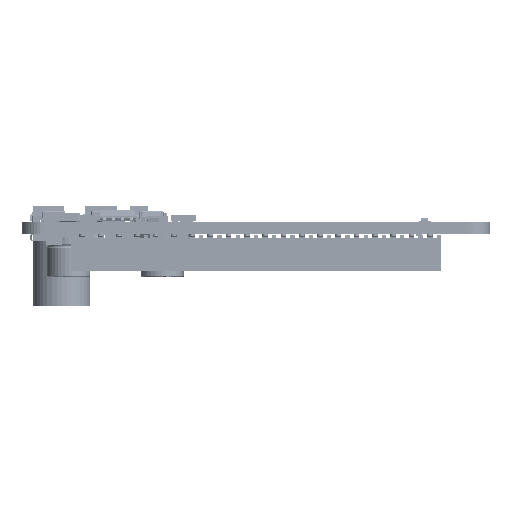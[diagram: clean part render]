
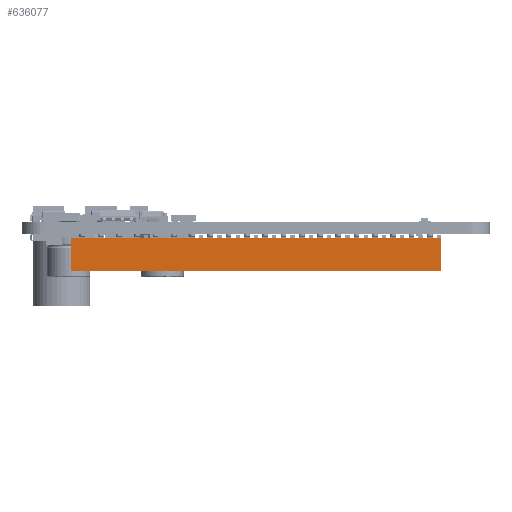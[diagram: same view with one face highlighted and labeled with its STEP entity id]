
A CAD part, front view. The second image highlights one B-rep face of the part: STEP entity #636077.
In plain terms, the highlighted planar face has unit normal (0, -1, 0) as drawn and (0, 0, -1) by its records, which use the part's own axes.
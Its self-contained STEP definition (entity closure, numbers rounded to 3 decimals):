
#595884 = PLANE('',#595885);
#595885 = AXIS2_PLACEMENT_3D('',#595886,#595887,#595888);
#595886 = CARTESIAN_POINT('',(25.65,2.52,0.)
  );
#595887 = DIRECTION('',(1.,0.,0.));
#595888 = DIRECTION('',(0.,0.,-1.));
#595940 = PLANE('',#595941);
#595941 = AXIS2_PLACEMENT_3D('',#595942,#595943,#595944);
#595942 = CARTESIAN_POINT('',(-25.65,2.52,0.)
  );
#595943 = DIRECTION('',(1.,0.,0.));
#595944 = DIRECTION('',(0.,0.,-1.));
#598355 = PLANE('',#598356);
#598356 = AXIS2_PLACEMENT_3D('',#598357,#598358,#598359);
#598357 = CARTESIAN_POINT('',(-25.65,0.4,-2.6));
#598358 = DIRECTION('',(0.,-1.,0.));
#598359 = DIRECTION('',(0.,0.,-1.));
#610436 = EDGE_CURVE('',#610437,#610439,#610441,.T.);
#610437 = VERTEX_POINT('',#610438);
#610438 = CARTESIAN_POINT('',(-25.65,0.4,-2.6));
#610439 = VERTEX_POINT('',#610440);
#610440 = CARTESIAN_POINT('',(25.65,0.4,-2.6));
#610441 = SURFACE_CURVE('',#610442,(#610446,#610453),.PCURVE_S1.);
#610442 = LINE('',#610443,#610444);
#610443 = CARTESIAN_POINT('',(-25.65,0.4,-2.6));
#610444 = VECTOR('',#610445,1.);
#610445 = DIRECTION('',(1.,0.,0.));
#610446 = PCURVE('',#598355,#610447);
#610447 = DEFINITIONAL_REPRESENTATION('',(#610448),#610452);
#610448 = LINE('',#610449,#610450);
#610449 = CARTESIAN_POINT('',(0.,0.));
#610450 = VECTOR('',#610451,1.);
#610451 = DIRECTION('',(0.,1.));
#610452 = ( GEOMETRIC_REPRESENTATION_CONTEXT(2) 
PARAMETRIC_REPRESENTATION_CONTEXT() REPRESENTATION_CONTEXT('2D SPACE',''
  ) );
#610453 = PCURVE('',#610454,#610459);
#610454 = PLANE('',#610455);
#610455 = AXIS2_PLACEMENT_3D('',#610456,#610457,#610458);
#610456 = CARTESIAN_POINT('',(-25.65,5.,-2.6));
#610457 = DIRECTION('',(0.,0.,-1.));
#610458 = DIRECTION('',(0.,1.,0.));
#610459 = DEFINITIONAL_REPRESENTATION('',(#610460),#610464);
#610460 = LINE('',#610461,#610462);
#610461 = CARTESIAN_POINT('',(-4.6,0.));
#610462 = VECTOR('',#610463,1.);
#610463 = DIRECTION('',(0.,1.));
#610464 = ( GEOMETRIC_REPRESENTATION_CONTEXT(2) 
PARAMETRIC_REPRESENTATION_CONTEXT() REPRESENTATION_CONTEXT('2D SPACE',''
  ) );
#611538 = PLANE('',#611539);
#611539 = AXIS2_PLACEMENT_3D('',#611540,#611541,#611542);
#611540 = CARTESIAN_POINT('',(-25.65,5.,2.6));
#611541 = DIRECTION('',(0.,1.,0.));
#611542 = DIRECTION('',(0.,0.,1.));
#636011 = VERTEX_POINT('',#636012);
#636012 = CARTESIAN_POINT('',(25.65,5.,-2.6));
#636033 = EDGE_CURVE('',#636034,#636011,#636036,.T.);
#636034 = VERTEX_POINT('',#636035);
#636035 = CARTESIAN_POINT('',(-25.65,5.,-2.6));
#636036 = SURFACE_CURVE('',#636037,(#636041,#636048),.PCURVE_S1.);
#636037 = LINE('',#636038,#636039);
#636038 = CARTESIAN_POINT('',(-25.65,5.,-2.6));
#636039 = VECTOR('',#636040,1.);
#636040 = DIRECTION('',(1.,0.,0.));
#636041 = PCURVE('',#611538,#636042);
#636042 = DEFINITIONAL_REPRESENTATION('',(#636043),#636047);
#636043 = LINE('',#636044,#636045);
#636044 = CARTESIAN_POINT('',(-5.2,0.));
#636045 = VECTOR('',#636046,1.);
#636046 = DIRECTION('',(0.,1.));
#636047 = ( GEOMETRIC_REPRESENTATION_CONTEXT(2) 
PARAMETRIC_REPRESENTATION_CONTEXT() REPRESENTATION_CONTEXT('2D SPACE',''
  ) );
#636048 = PCURVE('',#610454,#636049);
#636049 = DEFINITIONAL_REPRESENTATION('',(#636050),#636054);
#636050 = LINE('',#636051,#636052);
#636051 = CARTESIAN_POINT('',(0.,0.));
#636052 = VECTOR('',#636053,1.);
#636053 = DIRECTION('',(0.,1.));
#636054 = ( GEOMETRIC_REPRESENTATION_CONTEXT(2) 
PARAMETRIC_REPRESENTATION_CONTEXT() REPRESENTATION_CONTEXT('2D SPACE',''
  ) );
#636077 = ADVANCED_FACE('',(#636078),#610454,.T.);
#636078 = FACE_BOUND('',#636079,.T.);
#636079 = EDGE_LOOP('',(#636080,#636101,#636102,#636123));
#636080 = ORIENTED_EDGE('',*,*,#636081,.T.);
#636081 = EDGE_CURVE('',#636011,#610439,#636082,.T.);
#636082 = SURFACE_CURVE('',#636083,(#636087,#636094),.PCURVE_S1.);
#636083 = LINE('',#636084,#636085);
#636084 = CARTESIAN_POINT('',(25.65,0.4,-2.6));
#636085 = VECTOR('',#636086,1.);
#636086 = DIRECTION('',(0.,-1.,0.));
#636087 = PCURVE('',#610454,#636088);
#636088 = DEFINITIONAL_REPRESENTATION('',(#636089),#636093);
#636089 = LINE('',#636090,#636091);
#636090 = CARTESIAN_POINT('',(-4.6,51.3));
#636091 = VECTOR('',#636092,1.);
#636092 = DIRECTION('',(-1.,0.));
#636093 = ( GEOMETRIC_REPRESENTATION_CONTEXT(2) 
PARAMETRIC_REPRESENTATION_CONTEXT() REPRESENTATION_CONTEXT('2D SPACE',''
  ) );
#636094 = PCURVE('',#595884,#636095);
#636095 = DEFINITIONAL_REPRESENTATION('',(#636096),#636100);
#636096 = LINE('',#636097,#636098);
#636097 = CARTESIAN_POINT('',(2.6,-2.12));
#636098 = VECTOR('',#636099,1.);
#636099 = DIRECTION('',(0.,-1.));
#636100 = ( GEOMETRIC_REPRESENTATION_CONTEXT(2) 
PARAMETRIC_REPRESENTATION_CONTEXT() REPRESENTATION_CONTEXT('2D SPACE',''
  ) );
#636101 = ORIENTED_EDGE('',*,*,#610436,.F.);
#636102 = ORIENTED_EDGE('',*,*,#636103,.T.);
#636103 = EDGE_CURVE('',#610437,#636034,#636104,.T.);
#636104 = SURFACE_CURVE('',#636105,(#636109,#636116),.PCURVE_S1.);
#636105 = LINE('',#636106,#636107);
#636106 = CARTESIAN_POINT('',(-25.65,0.4,-2.6));
#636107 = VECTOR('',#636108,1.);
#636108 = DIRECTION('',(0.,1.,0.));
#636109 = PCURVE('',#610454,#636110);
#636110 = DEFINITIONAL_REPRESENTATION('',(#636111),#636115);
#636111 = LINE('',#636112,#636113);
#636112 = CARTESIAN_POINT('',(-4.6,0.));
#636113 = VECTOR('',#636114,1.);
#636114 = DIRECTION('',(1.,0.));
#636115 = ( GEOMETRIC_REPRESENTATION_CONTEXT(2) 
PARAMETRIC_REPRESENTATION_CONTEXT() REPRESENTATION_CONTEXT('2D SPACE',''
  ) );
#636116 = PCURVE('',#595940,#636117);
#636117 = DEFINITIONAL_REPRESENTATION('',(#636118),#636122);
#636118 = LINE('',#636119,#636120);
#636119 = CARTESIAN_POINT('',(2.6,-2.12));
#636120 = VECTOR('',#636121,1.);
#636121 = DIRECTION('',(0.,1.));
#636122 = ( GEOMETRIC_REPRESENTATION_CONTEXT(2) 
PARAMETRIC_REPRESENTATION_CONTEXT() REPRESENTATION_CONTEXT('2D SPACE',''
  ) );
#636123 = ORIENTED_EDGE('',*,*,#636033,.T.);
